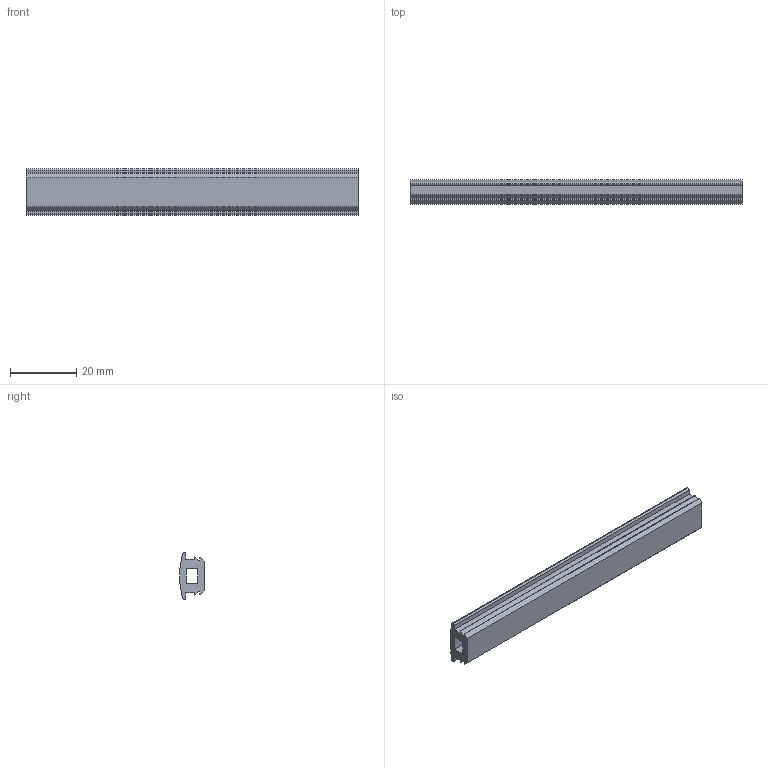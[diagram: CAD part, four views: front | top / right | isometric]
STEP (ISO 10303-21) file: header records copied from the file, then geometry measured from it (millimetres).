
FILE_DESCRIPTION(/* description */ ('Guarnizione pvc nera 392, chiusura cava 8'),/* implementation_level */ '2;1');
FILE_NAME(/* name */ 'C:\Users\Stefan.Nesic\Desktop\01010 STEP da zippare\392.stp',/* time_stamp */ '2022-06-17T11:55:09+02:00',/* author */ ('MarcoD'),/* organization */ (''),/* preprocessor_version */ 'ST-DEVELOPER v18.1',/* originating_system */ 'Autodesk Inventor 2021',/* authorisation */ '');
FILE_SCHEMA (('AUTOMOTIVE_DESIGN { 1 0 10303 214 3 1 1 }'));
Length unit declared in the file: millimetre
Products named in the file (1): 392
Bounding box: 100 x 7.31 x 14 mm (x, y, z)
Volume: 6246.2 mm3; surface area: 6182.3 mm2
Topology: 1 solids, 1 shells, 32 faces, 90 edges, 60 vertices
Faces by surface type: plane 23, cylinder 9
Entity records: 1077 total; most frequent: CARTESIAN_POINT 183, ORIENTED_EDGE 180, DIRECTION 174, EDGE_CURVE 90, LINE 72, VECTOR 72, VERTEX_POINT 60, AXIS2_PLACEMENT_3D 51
